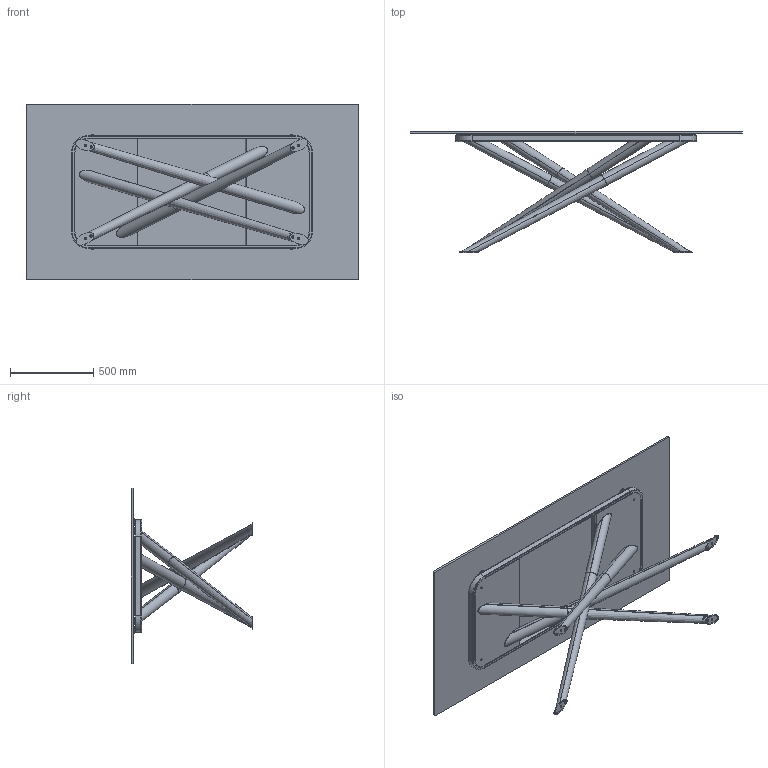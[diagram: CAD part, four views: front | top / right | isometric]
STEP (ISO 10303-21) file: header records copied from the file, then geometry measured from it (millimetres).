
FILE_DESCRIPTION (( 'STEP AP203' ), '1' );
FILE_NAME ('BA21G.STEP', '2024-08-08T06:05:35', ( '' ), ( '' ), 'SwSTEP 2.0', 'SolidWorks 2022', '' );
FILE_SCHEMA (( 'CONFIG_CONTROL_DESIGN' ));
Length unit declared in the file: millimetre
Products named in the file (9): BAB100000_03-00-Telaio BALY L240_Default<A macchina>; M6xXXmm_HEX_M6x30mm HEX; C2XCRXX-00-Piani Rettangolari Cristallo_21 2000x1060; BA21G; BAB100000_01-00-Gambe saldate BALY 240_Default<A macchina>; BAB100000_02-00-piede per baly 240; TR Fastenings Ltd-M6_M6; BAB100000-00-BALY BASE GREZZA L240 rettangolare; 434070-00-PIEDINO TPV GOMMA NERO D. 30x8max18
Assembly tree (24 placements, depth 3):
  BA21G
    C2XCRXX-00-Piani Rettangolari Cristallo_21 2000x1060
    BAB100000-00-BALY BASE GREZZA L240 rettangolare
      BAB100000_01-00-Gambe saldate BALY 240_Default<A macchina>
      BAB100000_03-00-Telaio BALY L240_Default<A macchina>
      BAB100000_02-00-piede per baly 240  x4
      TR Fastenings Ltd-M6_M6  x2
      M6xXXmm_HEX_M6x30mm HEX  x8
    434070-00-PIEDINO TPV GOMMA NERO D. 30x8max18  x6
Bounding box: 2000 x 731 x 1060 mm (x, y, z)
Volume: 31288659.7 mm3; surface area: 8559324.1 mm2
Topology: 39 solids, 39 shells, 684 faces, 1380 edges, 768 vertices
Faces by surface type: plane 314, cylinder 192, cone 88, torus 72, bspline 18
Entity records: 10329 total; most frequent: CARTESIAN_POINT 1739, DIRECTION 1632, ORIENTED_EDGE 1396, EDGE_CURVE 698, AXIS2_PLACEMENT_3D 636, VERTEX_POINT 399, EDGE_LOOP 373, VECTOR 360
